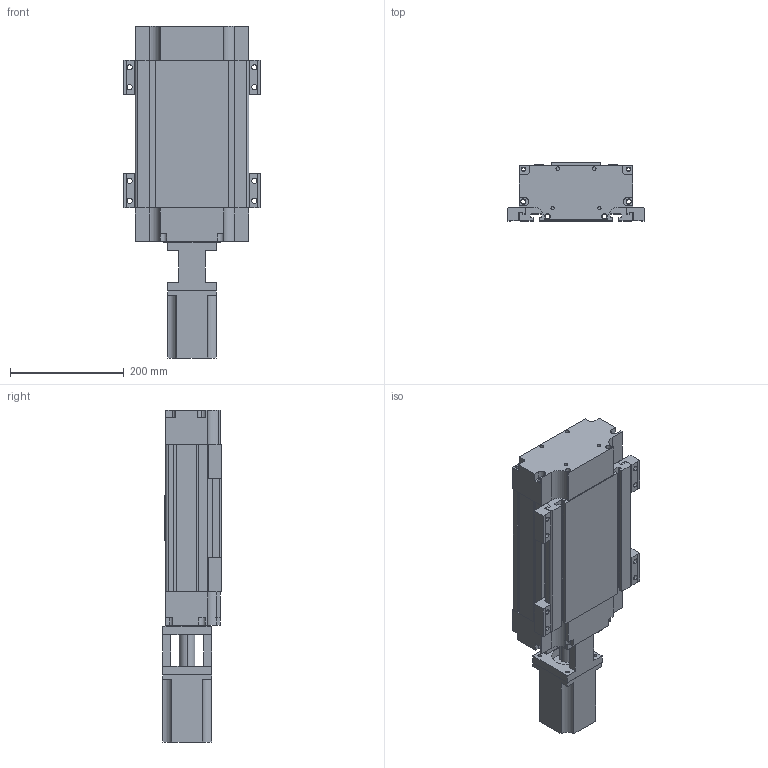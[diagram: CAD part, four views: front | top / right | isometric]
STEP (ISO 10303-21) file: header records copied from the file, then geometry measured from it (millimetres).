
FILE_DESCRIPTION (( 'STEP AP203' ), '1' );
FILE_NAME ('MSY200B-设计样例.STEP', '2013-11-02T05:41:03', ( '微软用户' ), ( '微软中国' ), 'SwSTEP 2.0', 'SolidWorks 2010', '' );
FILE_SCHEMA (( 'CONFIG_CONTROL_DESIGN' ));
Length unit declared in the file: millimetre
Products named in the file (1): MSY200B-扢數欴瞰
Bounding box: 240 x 103 x 584 mm (x, y, z)
Volume: 7861154.5 mm3; surface area: 529578 mm2
Topology: 1 solids, 1 shells, 471 faces, 1255 edges, 816 vertices
Faces by surface type: plane 317, cylinder 146, cone 8
Entity records: 14699 total; most frequent: CARTESIAN_POINT 2565, ORIENTED_EDGE 2494, DIRECTION 2488, EDGE_CURVE 1247, VECTOR 946, LINE 946, VERTEX_POINT 816, AXIS2_PLACEMENT_3D 771
